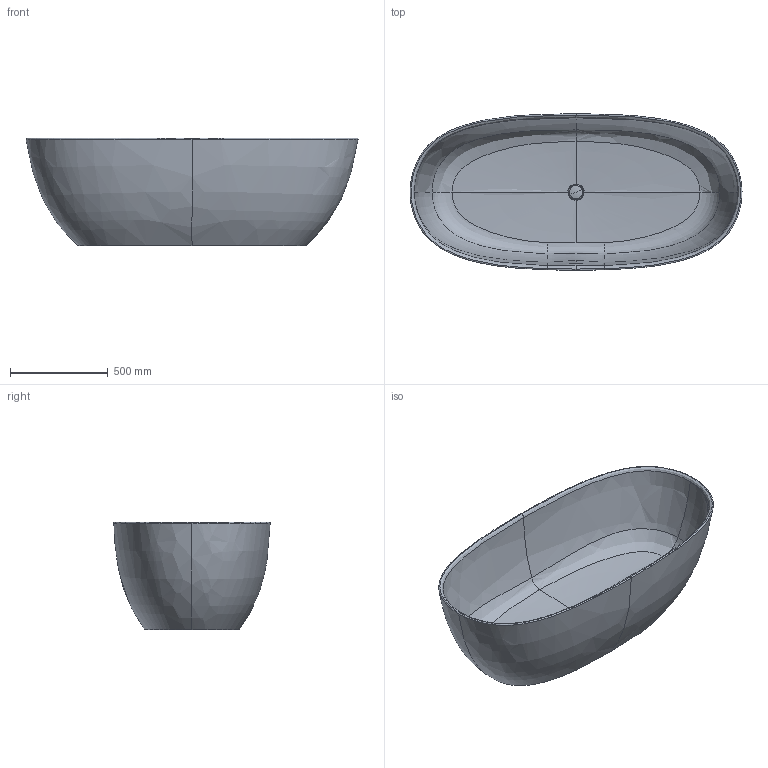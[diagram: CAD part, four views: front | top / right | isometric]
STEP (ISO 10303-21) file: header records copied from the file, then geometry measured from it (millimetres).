
FILE_DESCRIPTION(/* description */ (''),/* implementation_level */ '2;1');
FILE_NAME(/* name */ 'AP170V',/* time_stamp */ '2024-03-15T09:33:20+01:00',/* author */ (''),/* organization */ (''),/* preprocessor_version */ 'ST-DEVELOPER v16.5',/* originating_system */ 'Rhino 7.36',/* authorisation */ '');
FILE_SCHEMA (('CONFIG_CONTROL_DESIGN'));
Length unit declared in the file: millimetre
Products named in the file (1): Document
Bounding box: 1698.36 x 799.66 x 549.83 mm (x, y, z)
Volume: 61471325 mm3; surface area: 5649485.1 mm2
Topology: 2 solids, 2 shells, 120 faces, 270 edges, 151 vertices
Faces by surface type: bspline 94, plane 14, cylinder 12
Entity records: 62553 total; most frequent: CARTESIAN_POINT 60872, ORIENTED_EDGE 532, EDGE_CURVE 266, B_SPLINE_CURVE_WITH_KNOTS 154, VERTEX_POINT 149, EDGE_LOOP 121, ADVANCED_FACE 120, FACE_OUTER_BOUND 120
